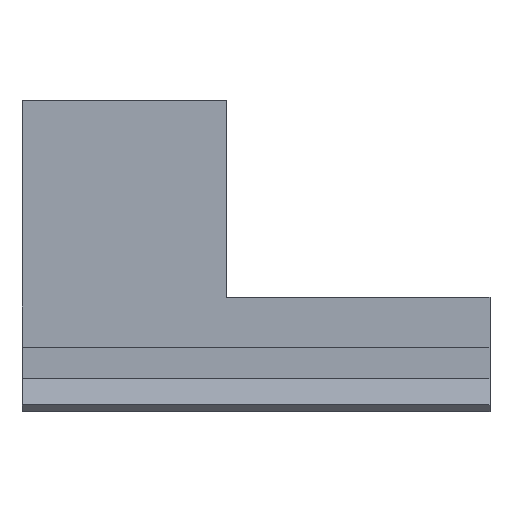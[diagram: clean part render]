
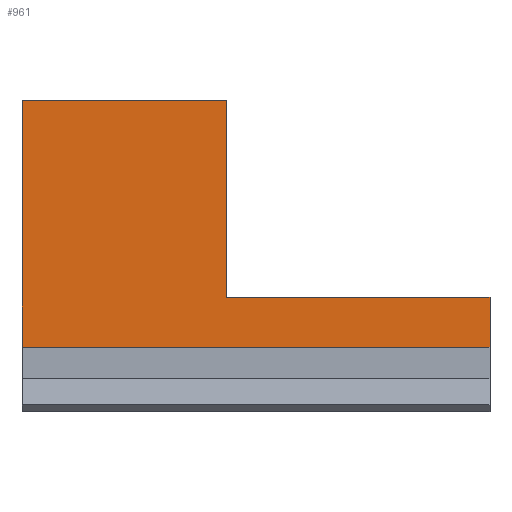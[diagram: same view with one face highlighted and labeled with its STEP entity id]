
A CAD part, top view. The second image highlights one B-rep face of the part: STEP entity #961.
In plain terms, the highlighted planar face has unit normal (0, 0, 1).
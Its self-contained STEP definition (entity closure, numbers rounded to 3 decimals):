
#40=FACE_OUTER_BOUND('',#88,.T.);
#88=EDGE_LOOP('',(#754,#755,#756,#757,#758,#759));
#142=LINE('',#1356,#278);
#145=LINE('',#1361,#281);
#159=LINE('',#1392,#295);
#209=LINE('',#1491,#345);
#217=LINE('',#1505,#353);
#220=LINE('',#1510,#356);
#278=VECTOR('',#1101,10.);
#281=VECTOR('',#1106,10.);
#295=VECTOR('',#1128,10.);
#345=VECTOR('',#1180,10.);
#353=VECTOR('',#1192,10.);
#356=VECTOR('',#1199,10.);
#410=VERTEX_POINT('',#1353);
#411=VERTEX_POINT('',#1355);
#412=VERTEX_POINT('',#1359);
#424=VERTEX_POINT('',#1389);
#425=VERTEX_POINT('',#1391);
#473=VERTEX_POINT('',#1489);
#506=EDGE_CURVE('',#411,#410,#142,.T.);
#509=EDGE_CURVE('',#412,#410,#145,.T.);
#524=EDGE_CURVE('',#425,#424,#159,.T.);
#574=EDGE_CURVE('',#473,#412,#209,.T.);
#582=EDGE_CURVE('',#424,#411,#217,.T.);
#585=EDGE_CURVE('',#473,#425,#220,.T.);
#754=ORIENTED_EDGE('',*,*,#582,.T.);
#755=ORIENTED_EDGE('',*,*,#506,.T.);
#756=ORIENTED_EDGE('',*,*,#509,.F.);
#757=ORIENTED_EDGE('',*,*,#574,.F.);
#758=ORIENTED_EDGE('',*,*,#585,.T.);
#759=ORIENTED_EDGE('',*,*,#524,.T.);
#914=PLANE('',#1026);
#961=ADVANCED_FACE('',(#40),#914,.T.);
#1026=AXIS2_PLACEMENT_3D('',#1509,#1197,#1198);
#1101=DIRECTION('',(0.,1.,0.));
#1106=DIRECTION('',(1.,0.,0.));
#1128=DIRECTION('',(0.,1.,0.));
#1180=DIRECTION('',(0.,1.,0.));
#1192=DIRECTION('',(-1.,0.,0.));
#1197=DIRECTION('center_axis',(0.,0.,1.));
#1198=DIRECTION('ref_axis',(1.,0.,0.));
#1199=DIRECTION('',(1.,0.,0.));
#1353=CARTESIAN_POINT('',(12.9,10.3,9.4));
#1355=CARTESIAN_POINT('',(12.9,-3.5,9.4));
#1356=CARTESIAN_POINT('',(12.9,-5.,9.4));
#1359=CARTESIAN_POINT('',(-1.4,10.3,9.4));
#1361=CARTESIAN_POINT('',(31.4,10.3,9.4));
#1389=CARTESIAN_POINT('',(31.4,-3.5,9.4));
#1391=CARTESIAN_POINT('',(31.4,-7.,9.4));
#1392=CARTESIAN_POINT('',(31.4,-6.5,9.4));
#1489=CARTESIAN_POINT('',(-1.4,-7.,9.4));
#1491=CARTESIAN_POINT('',(-1.4,8.3,9.4));
#1505=CARTESIAN_POINT('',(-16.7,-3.5,9.4));
#1509=CARTESIAN_POINT('Origin',(-1.4,-6.5,9.4));
#1510=CARTESIAN_POINT('',(6.8,-7.,9.4));
